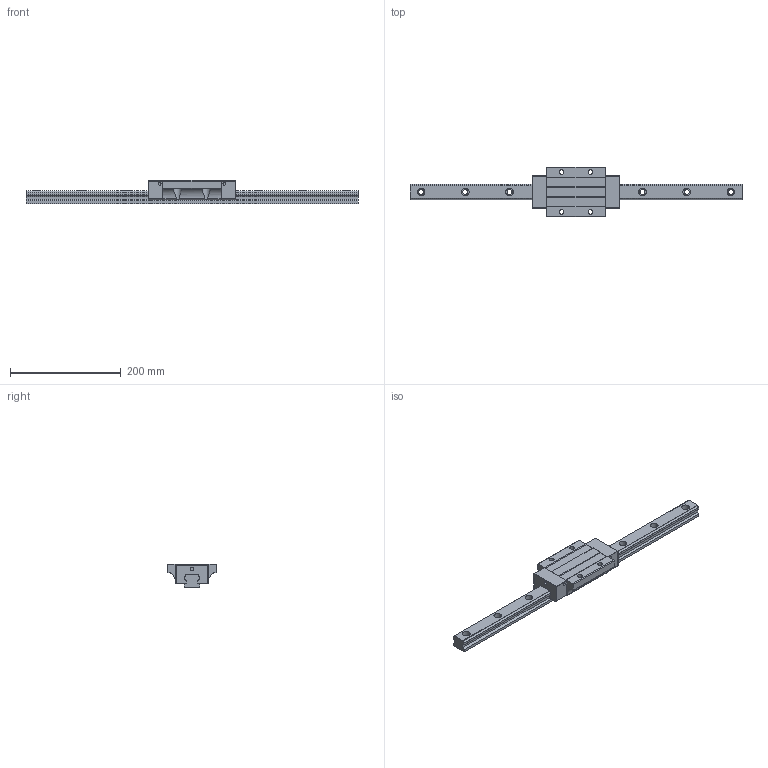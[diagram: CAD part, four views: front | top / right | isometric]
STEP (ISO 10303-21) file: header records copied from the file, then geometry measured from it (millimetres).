
FILE_DESCRIPTION (( 'STEP AP203' ), '1' );
FILE_NAME ('TRH30FE-DZ.STEP', '2024-07-04T06:21:42', ( '' ), ( '' ), 'SwSTEP 2.0', 'SolidWorks 2022', '' );
FILE_SCHEMA (( 'CONFIG_CONTROL_DESIGN' ));
Length unit declared in the file: millimetre
Products named in the file (1): TRH30FE-DZ
Bounding box: 600 x 90 x 42 mm (x, y, z)
Volume: 619277.7 mm3; surface area: 117349.9 mm2
Topology: 2 solids, 2 shells, 214 faces, 580 edges, 380 vertices
Faces by surface type: cylinder 116, plane 94, sphere 4
Entity records: 7465 total; most frequent: CARTESIAN_POINT 1829, DIRECTION 1184, ORIENTED_EDGE 1152, EDGE_CURVE 576, AXIS2_PLACEMENT_3D 421, VERTEX_POINT 380, VECTOR 342, LINE 342
